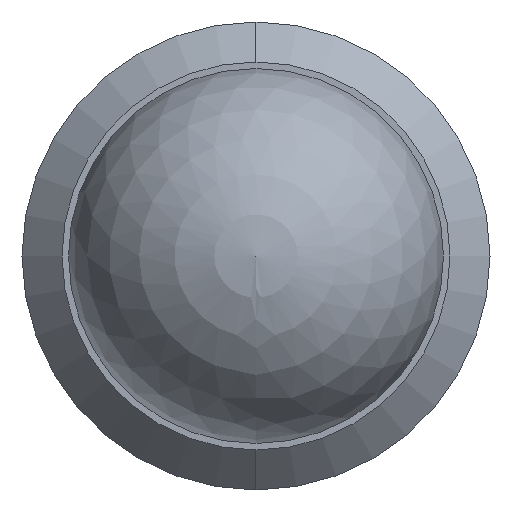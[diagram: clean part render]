
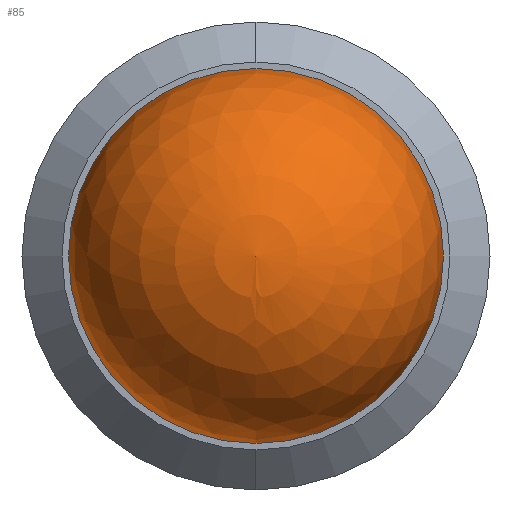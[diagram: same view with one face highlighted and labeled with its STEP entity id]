
A CAD part, left-side view. The second image highlights one B-rep face of the part: STEP entity #85.
In plain terms, the highlighted spherical face has radius 1.191 mm.
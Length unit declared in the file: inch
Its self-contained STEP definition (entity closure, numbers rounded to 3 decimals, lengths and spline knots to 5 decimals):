
#4 = EDGE_LOOP ( 'NONE', ( #195, #33 ) ) ;
#33 = ORIENTED_EDGE ( 'NONE', *, *, #184, .T. ) ;
#85 = ADVANCED_FACE ( 'NONE', ( #198 ), #549, .T. ) ;
#136 = EDGE_CURVE ( 'NONE', #537, #419, #536, .T. ) ;
#177 = CARTESIAN_POINT ( 'NONE',  ( 0., 0.04688, 0. ) ) ;
#184 = EDGE_CURVE ( 'NONE', #537, #419, #503, .T. ) ;
#195 = ORIENTED_EDGE ( 'NONE', *, *, #136, .F. ) ;
#197 = CARTESIAN_POINT ( 'NONE',  ( 0., 0., 0. ) ) ;
#198 = FACE_OUTER_BOUND ( 'NONE', #4, .T. ) ;
#228 = AXIS2_PLACEMENT_3D ( 'NONE', #487, #486, #485 ) ;
#239 = DIRECTION ( 'NONE',  ( 0., 0., -1. ) ) ;
#258 = AXIS2_PLACEMENT_3D ( 'NONE', #567, #557, #546 ) ;
#312 = AXIS2_PLACEMENT_3D ( 'NONE', #197, #377, #239 ) ;
#377 = DIRECTION ( 'NONE',  ( 1., 0., 0. ) ) ;
#394 = CARTESIAN_POINT ( 'NONE',  ( 0., -0.04688, 0. ) ) ;
#419 = VERTEX_POINT ( 'NONE', #394 ) ;
#485 = DIRECTION ( 'NONE',  ( 0., 0., 1. ) ) ;
#486 = DIRECTION ( 'NONE',  ( -1., 0., 0. ) ) ;
#487 = CARTESIAN_POINT ( 'NONE',  ( 0., 0., 0. ) ) ;
#503 = CIRCLE ( 'NONE', #228, 0.04688 ) ;
#536 = CIRCLE ( 'NONE', #258, 0.04688 ) ;
#537 = VERTEX_POINT ( 'NONE', #177 ) ;
#546 = DIRECTION ( 'NONE',  ( 0., 0., -1. ) ) ;
#549 = SPHERICAL_SURFACE ( 'NONE', #312, 0.04688 ) ;
#557 = DIRECTION ( 'NONE',  ( 1., 0., 0. ) ) ;
#567 = CARTESIAN_POINT ( 'NONE',  ( 0., 0., 0. ) ) ;
